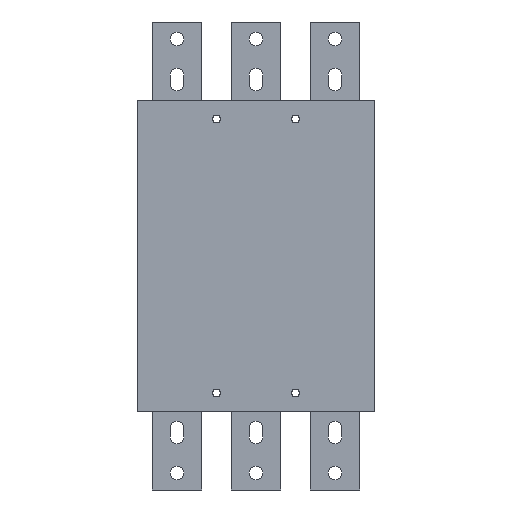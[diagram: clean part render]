
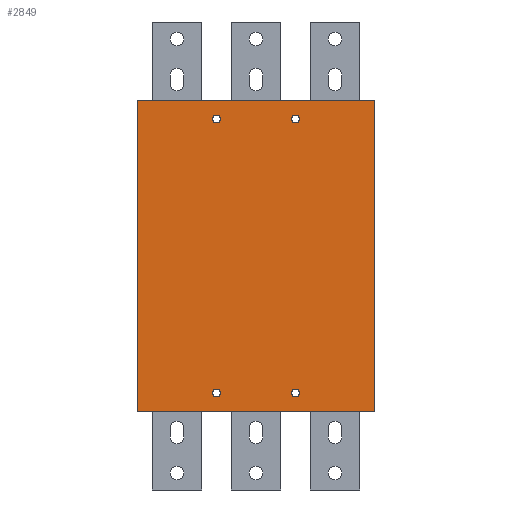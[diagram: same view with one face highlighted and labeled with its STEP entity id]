
A CAD part, front view. The second image highlights one B-rep face of the part: STEP entity #2849.
In plain terms, the highlighted planar face has unit normal (0, -1, 0).
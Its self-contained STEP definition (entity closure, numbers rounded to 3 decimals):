
#86 = DIRECTION ( 'NONE',  ( 0., 0., 1. ) ) ;
#102 = EDGE_LOOP ( 'NONE', ( #3288, #5175 ) ) ;
#123 = EDGE_CURVE ( 'NONE', #4467, #3272, #4356, .T. ) ;
#126 = DIRECTION ( 'NONE',  ( 0., 1., 0. ) ) ;
#133 = CARTESIAN_POINT ( 'NONE',  ( 35., 0., -125. ) ) ;
#214 = CARTESIAN_POINT ( 'NONE',  ( -35., 0., 121.5 ) ) ;
#233 = VERTEX_POINT ( 'NONE', #3686 ) ;
#251 = VERTEX_POINT ( 'NONE', #1974 ) ;
#269 = DIRECTION ( 'NONE',  ( 0., 0., 1. ) ) ;
#315 = EDGE_CURVE ( 'NONE', #233, #5424, #3797, .T. ) ;
#336 = CARTESIAN_POINT ( 'NONE',  ( -35., 0., -125. ) ) ;
#369 = LINE ( 'NONE', #3007, #1423 ) ;
#436 = EDGE_CURVE ( 'NONE', #2132, #5389, #4433, .T. ) ;
#464 = CARTESIAN_POINT ( 'NONE',  ( 35., 0., -121.5 ) ) ;
#478 = CARTESIAN_POINT ( 'NONE',  ( 35., 0., 125. ) ) ;
#496 = ORIENTED_EDGE ( 'NONE', *, *, #3647, .F. ) ;
#527 = EDGE_LOOP ( 'NONE', ( #3352, #4539, #496, #4952 ) ) ;
#626 = DIRECTION ( 'NONE',  ( 0., 0., 1. ) ) ;
#673 = CARTESIAN_POINT ( 'NONE',  ( -105., 0., 137.5 ) ) ;
#695 = DIRECTION ( 'NONE',  ( 0., -1., 0. ) ) ;
#746 = DIRECTION ( 'NONE',  ( 0., 0., 1. ) ) ;
#909 = DIRECTION ( 'NONE',  ( 0., 0., 1. ) ) ;
#930 = DIRECTION ( 'NONE',  ( -1., 0., 0. ) ) ;
#995 = CARTESIAN_POINT ( 'NONE',  ( -105., 0., 137.5 ) ) ;
#1075 = CIRCLE ( 'NONE', #5819, 3.5 ) ;
#1180 = EDGE_CURVE ( 'NONE', #3272, #4467, #4625, .T. ) ;
#1423 = VECTOR ( 'NONE', #4881, 1000. ) ;
#1478 = ORIENTED_EDGE ( 'NONE', *, *, #3471, .T. ) ;
#1488 = CARTESIAN_POINT ( 'NONE',  ( -35., 0., -118. ) ) ;
#1797 = LINE ( 'NONE', #3646, #3146 ) ;
#1883 = CARTESIAN_POINT ( 'NONE',  ( 35., 0., 121.5 ) ) ;
#1974 = CARTESIAN_POINT ( 'NONE',  ( -105., 0., -137.5 ) ) ;
#1978 = FACE_OUTER_BOUND ( 'NONE', #527, .T. ) ;
#2046 = DIRECTION ( 'NONE',  ( 0., 1., 0. ) ) ;
#2057 = VERTEX_POINT ( 'NONE', #1488 ) ;
#2073 = PLANE ( 'NONE',  #3406 ) ;
#2132 = VERTEX_POINT ( 'NONE', #995 ) ;
#2203 = ORIENTED_EDGE ( 'NONE', *, *, #2793, .T. ) ;
#2330 = FACE_BOUND ( 'NONE', #3927, .T. ) ;
#2339 = AXIS2_PLACEMENT_3D ( 'NONE', #2949, #2046, #746 ) ;
#2394 = LINE ( 'NONE', #4663, #2604 ) ;
#2397 = CARTESIAN_POINT ( 'NONE',  ( 35., 0., -121.5 ) ) ;
#2411 = CARTESIAN_POINT ( 'NONE',  ( 105., 0., -137.5 ) ) ;
#2420 = DIRECTION ( 'NONE',  ( 0., 1., 0. ) ) ;
#2480 = CARTESIAN_POINT ( 'NONE',  ( 0., 0., 0. ) ) ;
#2507 = VERTEX_POINT ( 'NONE', #336 ) ;
#2604 = VECTOR ( 'NONE', #3766, 1000. ) ;
#2665 = CARTESIAN_POINT ( 'NONE',  ( 35., 0., -118. ) ) ;
#2702 = AXIS2_PLACEMENT_3D ( 'NONE', #4598, #126, #86 ) ;
#2728 = EDGE_CURVE ( 'NONE', #4717, #5024, #3614, .T. ) ;
#2793 = EDGE_CURVE ( 'NONE', #2507, #2057, #1075, .T. ) ;
#2849 = ADVANCED_FACE ( 'NONE', ( #2330, #5736, #4394, #4596, #1978 ), #2073, .T. ) ;
#2914 = DIRECTION ( 'NONE',  ( 1., 0., 0. ) ) ;
#2916 = DIRECTION ( 'NONE',  ( 0., 1., 0. ) ) ;
#2919 = DIRECTION ( 'NONE',  ( 0., 0., 1. ) ) ;
#2949 = CARTESIAN_POINT ( 'NONE',  ( -35., 0., -121.5 ) ) ;
#2953 = DIRECTION ( 'NONE',  ( 0., 1., 0. ) ) ;
#3007 = CARTESIAN_POINT ( 'NONE',  ( -105., 0., 137.5 ) ) ;
#3067 = EDGE_LOOP ( 'NONE', ( #1478, #2203 ) ) ;
#3101 = CARTESIAN_POINT ( 'NONE',  ( 105., 0., 137.5 ) ) ;
#3146 = VECTOR ( 'NONE', #930, 1000. ) ;
#3272 = VERTEX_POINT ( 'NONE', #478 ) ;
#3288 = ORIENTED_EDGE ( 'NONE', *, *, #315, .T. ) ;
#3352 = ORIENTED_EDGE ( 'NONE', *, *, #4009, .F. ) ;
#3371 = CARTESIAN_POINT ( 'NONE',  ( -35., 0., -121.5 ) ) ;
#3406 = AXIS2_PLACEMENT_3D ( 'NONE', #2480, #695, #5193 ) ;
#3471 = EDGE_CURVE ( 'NONE', #2057, #2507, #4455, .T. ) ;
#3508 = ORIENTED_EDGE ( 'NONE', *, *, #123, .T. ) ;
#3571 = CIRCLE ( 'NONE', #5792, 3.5 ) ;
#3614 = CIRCLE ( 'NONE', #5510, 3.5 ) ;
#3618 = DIRECTION ( 'NONE',  ( 0., 1., 0. ) ) ;
#3646 = CARTESIAN_POINT ( 'NONE',  ( -105., 0., -137.5 ) ) ;
#3647 = EDGE_CURVE ( 'NONE', #251, #2132, #369, .T. ) ;
#3686 = CARTESIAN_POINT ( 'NONE',  ( -35., 0., 125. ) ) ;
#3766 = DIRECTION ( 'NONE',  ( 0., 0., -1. ) ) ;
#3797 = CIRCLE ( 'NONE', #4025, 3.5 ) ;
#3927 = EDGE_LOOP ( 'NONE', ( #4548, #3508 ) ) ;
#4009 = EDGE_CURVE ( 'NONE', #5389, #4393, #2394, .T. ) ;
#4025 = AXIS2_PLACEMENT_3D ( 'NONE', #214, #5629, #2919 ) ;
#4137 = DIRECTION ( 'NONE',  ( 0., 0., 1. ) ) ;
#4356 = CIRCLE ( 'NONE', #5652, 3.5 ) ;
#4393 = VERTEX_POINT ( 'NONE', #2411 ) ;
#4394 = FACE_BOUND ( 'NONE', #5734, .T. ) ;
#4433 = LINE ( 'NONE', #673, #4915 ) ;
#4455 = CIRCLE ( 'NONE', #2339, 3.5 ) ;
#4467 = VERTEX_POINT ( 'NONE', #4692 ) ;
#4539 = ORIENTED_EDGE ( 'NONE', *, *, #436, .F. ) ;
#4548 = ORIENTED_EDGE ( 'NONE', *, *, #1180, .T. ) ;
#4596 = FACE_BOUND ( 'NONE', #3067, .T. ) ;
#4598 = CARTESIAN_POINT ( 'NONE',  ( 35., 0., 121.5 ) ) ;
#4607 = DIRECTION ( 'NONE',  ( 0., 1., 0. ) ) ;
#4625 = CIRCLE ( 'NONE', #2702, 3.5 ) ;
#4663 = CARTESIAN_POINT ( 'NONE',  ( 105., 0., 137.5 ) ) ;
#4692 = CARTESIAN_POINT ( 'NONE',  ( 35., 0., 118. ) ) ;
#4703 = AXIS2_PLACEMENT_3D ( 'NONE', #2397, #2420, #626 ) ;
#4717 = VERTEX_POINT ( 'NONE', #2665 ) ;
#4769 = ORIENTED_EDGE ( 'NONE', *, *, #2728, .T. ) ;
#4774 = ORIENTED_EDGE ( 'NONE', *, *, #5592, .T. ) ;
#4881 = DIRECTION ( 'NONE',  ( 0., 0., 1. ) ) ;
#4915 = VECTOR ( 'NONE', #2914, 1000. ) ;
#4952 = ORIENTED_EDGE ( 'NONE', *, *, #5572, .F. ) ;
#5024 = VERTEX_POINT ( 'NONE', #133 ) ;
#5175 = ORIENTED_EDGE ( 'NONE', *, *, #5825, .T. ) ;
#5193 = DIRECTION ( 'NONE',  ( 0., 0., -1. ) ) ;
#5389 = VERTEX_POINT ( 'NONE', #3101 ) ;
#5391 = CARTESIAN_POINT ( 'NONE',  ( -35., 0., 118. ) ) ;
#5424 = VERTEX_POINT ( 'NONE', #5391 ) ;
#5510 = AXIS2_PLACEMENT_3D ( 'NONE', #464, #3618, #909 ) ;
#5572 = EDGE_CURVE ( 'NONE', #4393, #251, #1797, .T. ) ;
#5592 = EDGE_CURVE ( 'NONE', #5024, #4717, #5821, .T. ) ;
#5606 = DIRECTION ( 'NONE',  ( 0., 0., 1. ) ) ;
#5629 = DIRECTION ( 'NONE',  ( 0., 1., 0. ) ) ;
#5652 = AXIS2_PLACEMENT_3D ( 'NONE', #1883, #4607, #4137 ) ;
#5662 = CARTESIAN_POINT ( 'NONE',  ( -35., 0., 121.5 ) ) ;
#5734 = EDGE_LOOP ( 'NONE', ( #4769, #4774 ) ) ;
#5736 = FACE_BOUND ( 'NONE', #102, .T. ) ;
#5792 = AXIS2_PLACEMENT_3D ( 'NONE', #5662, #2953, #269 ) ;
#5819 = AXIS2_PLACEMENT_3D ( 'NONE', #3371, #2916, #5606 ) ;
#5821 = CIRCLE ( 'NONE', #4703, 3.5 ) ;
#5825 = EDGE_CURVE ( 'NONE', #5424, #233, #3571, .T. ) ;
